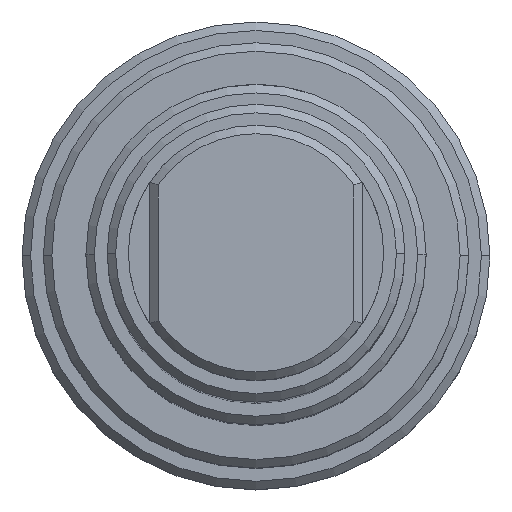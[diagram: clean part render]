
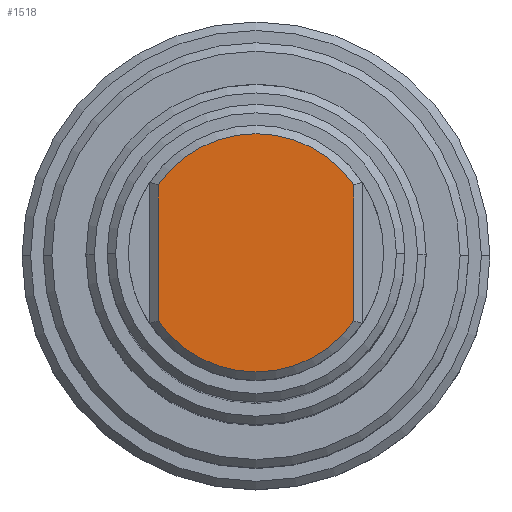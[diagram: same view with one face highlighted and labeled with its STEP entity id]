
A CAD part, top view. The second image highlights one B-rep face of the part: STEP entity #1518.
In plain terms, the highlighted planar face has unit normal (0, 0, 1).
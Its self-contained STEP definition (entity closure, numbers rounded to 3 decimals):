
#40 = CARTESIAN_POINT ( 'NONE',  ( 0., 0., 300. ) ) ;
#108 = CARTESIAN_POINT ( 'NONE',  ( 0., 0., 300. ) ) ;
#232 = EDGE_CURVE ( 'NONE', #983, #1852, #261, .T. ) ;
#246 = ORIENTED_EDGE ( 'NONE', *, *, #1772, .T. ) ;
#261 = CIRCLE ( 'NONE', #1383, 14. ) ;
#312 = CARTESIAN_POINT ( 'NONE',  ( 11.5, 7.984, 300. ) ) ;
#314 = EDGE_CURVE ( 'NONE', #1195, #1730, #470, .T. ) ;
#430 = PLANE ( 'NONE',  #1632 ) ;
#470 = CIRCLE ( 'NONE', #929, 14. ) ;
#487 = DIRECTION ( 'NONE',  ( 1., 0., 0. ) ) ;
#516 = EDGE_CURVE ( 'NONE', #1730, #983, #1075, .T. ) ;
#546 = EDGE_LOOP ( 'NONE', ( #1206, #246, #1561, #1617 ) ) ;
#552 = LINE ( 'NONE', #1279, #603 ) ;
#603 = VECTOR ( 'NONE', #1700, 1000. ) ;
#656 = VECTOR ( 'NONE', #1511, 1000. ) ;
#910 = DIRECTION ( 'NONE',  ( 0., 0., 1. ) ) ;
#929 = AXIS2_PLACEMENT_3D ( 'NONE', #108, #1813, #1687 ) ;
#930 = CARTESIAN_POINT ( 'NONE',  ( 11.5, 0., 300. ) ) ;
#983 = VERTEX_POINT ( 'NONE', #312 ) ;
#1075 = LINE ( 'NONE', #930, #656 ) ;
#1195 = VERTEX_POINT ( 'NONE', #1430 ) ;
#1206 = ORIENTED_EDGE ( 'NONE', *, *, #232, .T. ) ;
#1279 = CARTESIAN_POINT ( 'NONE',  ( -11.5, 0., 300. ) ) ;
#1288 = CARTESIAN_POINT ( 'NONE',  ( -11.5, 7.984, 300. ) ) ;
#1322 = CARTESIAN_POINT ( 'NONE',  ( 0., 0., 300. ) ) ;
#1383 = AXIS2_PLACEMENT_3D ( 'NONE', #40, #910, #487 ) ;
#1430 = CARTESIAN_POINT ( 'NONE',  ( -11.5, -7.984, 300. ) ) ;
#1458 = DIRECTION ( 'NONE',  ( 1., 0., 0. ) ) ;
#1511 = DIRECTION ( 'NONE',  ( 0., 1., 0. ) ) ;
#1518 = ADVANCED_FACE ( 'NONE', ( #1729 ), #430, .T. ) ;
#1561 = ORIENTED_EDGE ( 'NONE', *, *, #314, .T. ) ;
#1569 = CARTESIAN_POINT ( 'NONE',  ( 11.5, -7.984, 300. ) ) ;
#1582 = DIRECTION ( 'NONE',  ( 0., 0., 1. ) ) ;
#1617 = ORIENTED_EDGE ( 'NONE', *, *, #516, .T. ) ;
#1632 = AXIS2_PLACEMENT_3D ( 'NONE', #1322, #1582, #1458 ) ;
#1687 = DIRECTION ( 'NONE',  ( 1., 0., 0. ) ) ;
#1700 = DIRECTION ( 'NONE',  ( 0., -1., 0. ) ) ;
#1729 = FACE_OUTER_BOUND ( 'NONE', #546, .T. ) ;
#1730 = VERTEX_POINT ( 'NONE', #1569 ) ;
#1772 = EDGE_CURVE ( 'NONE', #1852, #1195, #552, .T. ) ;
#1813 = DIRECTION ( 'NONE',  ( 0., 0., 1. ) ) ;
#1852 = VERTEX_POINT ( 'NONE', #1288 ) ;
